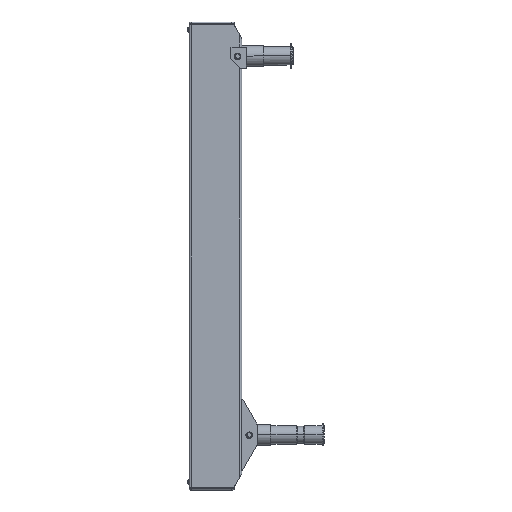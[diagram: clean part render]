
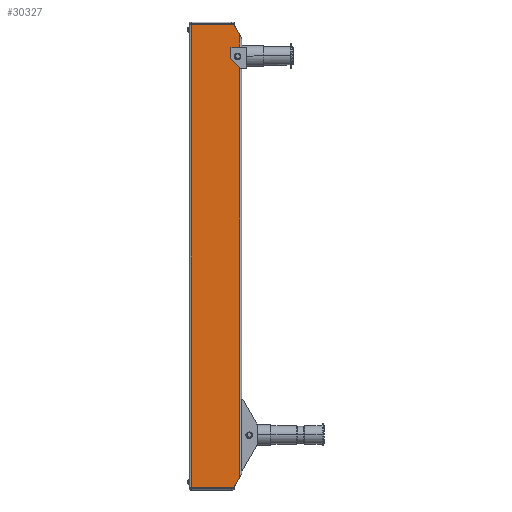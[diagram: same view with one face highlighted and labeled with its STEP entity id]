
A CAD part, left-side view. The second image highlights one B-rep face of the part: STEP entity #30327.
In plain terms, the highlighted planar face has unit normal (-1, 0, 0).
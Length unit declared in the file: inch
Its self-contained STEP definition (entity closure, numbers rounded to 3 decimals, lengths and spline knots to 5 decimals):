
#445 = CARTESIAN_POINT ( 'NONE',  ( 0., 2.4, 11. ) ) ;
#941 = DIRECTION ( 'NONE',  ( 0., 0., -1. ) ) ;
#1212 = DIRECTION ( 'NONE',  ( 0., -0.5, -0.866 ) ) ;
#2160 = FACE_OUTER_BOUND ( 'NONE', #41100, .T. ) ;
#3137 = EDGE_CURVE ( 'NONE', #41731, #24826, #44803, .T. ) ;
#3223 = CARTESIAN_POINT ( 'NONE',  ( 0., 0.1, 10.52369 ) ) ;
#3754 = ORIENTED_EDGE ( 'NONE', *, *, #42949, .T. ) ;
#3954 = DIRECTION ( 'NONE',  ( 0., 0.5, -0.866 ) ) ;
#4174 = ORIENTED_EDGE ( 'NONE', *, *, #9856, .T. ) ;
#4365 = DIRECTION ( 'NONE',  ( 0., -1., 0. ) ) ;
#5631 = ORIENTED_EDGE ( 'NONE', *, *, #3137, .F. ) ;
#6401 = VECTOR ( 'NONE', #3954, 39.37008 ) ;
#6682 = VECTOR ( 'NONE', #4365, 39.37008 ) ;
#6871 = ORIENTED_EDGE ( 'NONE', *, *, #15404, .T. ) ;
#7044 = AXIS2_PLACEMENT_3D ( 'NONE', #28933, #32968, #53249 ) ;
#8128 = DIRECTION ( 'NONE',  ( 0., 0., 1. ) ) ;
#8499 = VERTEX_POINT ( 'NONE', #40527 ) ;
#9352 = AXIS2_PLACEMENT_3D ( 'NONE', #26800, #13350, #25557 ) ;
#9856 = EDGE_CURVE ( 'NONE', #40243, #52590, #53307, .T. ) ;
#10141 = DIRECTION ( 'NONE',  ( 1., 0., 0. ) ) ;
#11052 = CIRCLE ( 'NONE', #24917, 0.14063 ) ;
#11564 = VERTEX_POINT ( 'NONE', #16413 ) ;
#11651 = CARTESIAN_POINT ( 'NONE',  ( 0., 0.185, 9.64062 ) ) ;
#12196 = CARTESIAN_POINT ( 'NONE',  ( 0., -0.04803, 9.375 ) ) ;
#12577 = PLANE ( 'NONE',  #9352 ) ;
#13015 = LINE ( 'NONE', #49556, #6682 ) ;
#13350 = DIRECTION ( 'NONE',  ( -1., 0., 0. ) ) ;
#13950 = CIRCLE ( 'NONE', #7044, 0.14063 ) ;
#14319 = ORIENTED_EDGE ( 'NONE', *, *, #40761, .T. ) ;
#14736 = DIRECTION ( 'NONE',  ( 0., 0., -1. ) ) ;
#15160 = CARTESIAN_POINT ( 'NONE',  ( 0., 0.1, -11. ) ) ;
#15404 = EDGE_CURVE ( 'NONE', #8499, #39035, #13015, .T. ) ;
#15703 = DIRECTION ( 'NONE',  ( 0., 1., 0. ) ) ;
#16321 = LINE ( 'NONE', #20672, #38983 ) ;
#16413 = CARTESIAN_POINT ( 'NONE',  ( 0., 2.4, 11. ) ) ;
#16599 = ORIENTED_EDGE ( 'NONE', *, *, #31133, .F. ) ;
#17145 = CIRCLE ( 'NONE', #41315, 0.14063 ) ;
#18268 = LINE ( 'NONE', #51253, #39694 ) ;
#18902 = ORIENTED_EDGE ( 'NONE', *, *, #37668, .F. ) ;
#20672 = CARTESIAN_POINT ( 'NONE',  ( 0., 2.4, -11. ) ) ;
#20742 = VECTOR ( 'NONE', #27272, 39.37008 ) ;
#21549 = DIRECTION ( 'NONE',  ( 0., -1., 0. ) ) ;
#21561 = CARTESIAN_POINT ( 'NONE',  ( 0., 0.375, 11. ) ) ;
#22328 = CARTESIAN_POINT ( 'NONE',  ( 0., 0.185, 9.5 ) ) ;
#22345 = CARTESIAN_POINT ( 'NONE',  ( 0., 2.4, -11. ) ) ;
#22600 = EDGE_CURVE ( 'NONE', #39035, #25197, #49521, .T. ) ;
#24688 = EDGE_CURVE ( 'NONE', #45365, #26931, #11052, .T. ) ;
#24826 = VERTEX_POINT ( 'NONE', #31480 ) ;
#24917 = AXIS2_PLACEMENT_3D ( 'NONE', #47439, #26630, #941 ) ;
#25197 = VERTEX_POINT ( 'NONE', #3223 ) ;
#25557 = DIRECTION ( 'NONE',  ( 0., -1., 0. ) ) ;
#25650 = CARTESIAN_POINT ( 'NONE',  ( 0., 0.1, -10.52369 ) ) ;
#26630 = DIRECTION ( 'NONE',  ( 1., 0., 0. ) ) ;
#26800 = CARTESIAN_POINT ( 'NONE',  ( 0., 2.4, -11. ) ) ;
#26931 = VERTEX_POINT ( 'NONE', #11651 ) ;
#27272 = DIRECTION ( 'NONE',  ( 0., 0., 1. ) ) ;
#28933 = CARTESIAN_POINT ( 'NONE',  ( 0., 0.185, 9.5 ) ) ;
#29213 = VECTOR ( 'NONE', #15703, 39.37008 ) ;
#29658 = EDGE_CURVE ( 'NONE', #11564, #45009, #42084, .T. ) ;
#29729 = EDGE_CURVE ( 'NONE', #26931, #8499, #17145, .T. ) ;
#30308 = CARTESIAN_POINT ( 'NONE',  ( 0., 0.1, 9.625 ) ) ;
#30327 = ADVANCED_FACE ( 'NONE', ( #2160 ), #12577, .T. ) ;
#30563 = ORIENTED_EDGE ( 'NONE', *, *, #22600, .T. ) ;
#31044 = CARTESIAN_POINT ( 'NONE',  ( 0., 2.4, -11. ) ) ;
#31133 = EDGE_CURVE ( 'NONE', #47197, #11564, #40248, .T. ) ;
#31480 = CARTESIAN_POINT ( 'NONE',  ( 0., 0.375, -11. ) ) ;
#31672 = DIRECTION ( 'NONE',  ( 0., 0., 1. ) ) ;
#31699 = CARTESIAN_POINT ( 'NONE',  ( 0., 0.12058, 9.375 ) ) ;
#32616 = CARTESIAN_POINT ( 'NONE',  ( 0., 0.375, -11. ) ) ;
#32860 = VECTOR ( 'NONE', #31672, 39.37008 ) ;
#32968 = DIRECTION ( 'NONE',  ( 1., 0., 0. ) ) ;
#35700 = ORIENTED_EDGE ( 'NONE', *, *, #43435, .T. ) ;
#37051 = VECTOR ( 'NONE', #21549, 39.37008 ) ;
#37668 = EDGE_CURVE ( 'NONE', #45009, #25197, #18268, .T. ) ;
#38563 = VECTOR ( 'NONE', #8128, 39.37008 ) ;
#38828 = CARTESIAN_POINT ( 'NONE',  ( 0., 0.1, 9.375 ) ) ;
#38983 = VECTOR ( 'NONE', #41480, 39.37008 ) ;
#39035 = VERTEX_POINT ( 'NONE', #30308 ) ;
#39694 = VECTOR ( 'NONE', #1212, 39.37008 ) ;
#40243 = VERTEX_POINT ( 'NONE', #38828 ) ;
#40248 = LINE ( 'NONE', #31044, #20742 ) ;
#40527 = CARTESIAN_POINT ( 'NONE',  ( 0., 0.12058, 9.625 ) ) ;
#40761 = EDGE_CURVE ( 'NONE', #41731, #40243, #52250, .T. ) ;
#41100 = EDGE_LOOP ( 'NONE', ( #4174, #35700, #41933, #43736, #6871, #30563, #18902, #50195, #16599, #3754, #5631, #14319 ) ) ;
#41315 = AXIS2_PLACEMENT_3D ( 'NONE', #22328, #10141, #14736 ) ;
#41480 = DIRECTION ( 'NONE',  ( 0., -1., 0. ) ) ;
#41731 = VERTEX_POINT ( 'NONE', #25650 ) ;
#41933 = ORIENTED_EDGE ( 'NONE', *, *, #24688, .T. ) ;
#42084 = LINE ( 'NONE', #445, #37051 ) ;
#42949 = EDGE_CURVE ( 'NONE', #47197, #24826, #16321, .T. ) ;
#43435 = EDGE_CURVE ( 'NONE', #52590, #45365, #13950, .T. ) ;
#43736 = ORIENTED_EDGE ( 'NONE', *, *, #29729, .T. ) ;
#44803 = LINE ( 'NONE', #32616, #6401 ) ;
#45009 = VERTEX_POINT ( 'NONE', #21561 ) ;
#45365 = VERTEX_POINT ( 'NONE', #49029 ) ;
#47197 = VERTEX_POINT ( 'NONE', #22345 ) ;
#47439 = CARTESIAN_POINT ( 'NONE',  ( 0., 0.185, 9.5 ) ) ;
#49029 = CARTESIAN_POINT ( 'NONE',  ( 0., 0.185, 9.35937 ) ) ;
#49521 = LINE ( 'NONE', #49770, #38563 ) ;
#49556 = CARTESIAN_POINT ( 'NONE',  ( 0., -0.04803, 9.625 ) ) ;
#49770 = CARTESIAN_POINT ( 'NONE',  ( 0., 0.1, -11. ) ) ;
#50195 = ORIENTED_EDGE ( 'NONE', *, *, #29658, .F. ) ;
#51253 = CARTESIAN_POINT ( 'NONE',  ( 0., 0.375, 11. ) ) ;
#52250 = LINE ( 'NONE', #15160, #32860 ) ;
#52590 = VERTEX_POINT ( 'NONE', #31699 ) ;
#53249 = DIRECTION ( 'NONE',  ( 0., 0., -1. ) ) ;
#53307 = LINE ( 'NONE', #12196, #29213 ) ;
